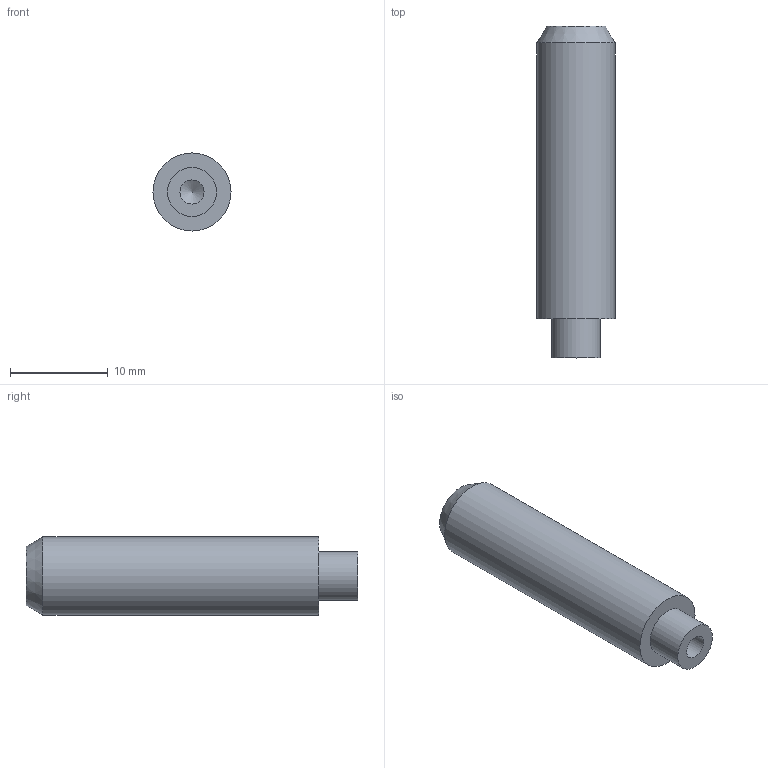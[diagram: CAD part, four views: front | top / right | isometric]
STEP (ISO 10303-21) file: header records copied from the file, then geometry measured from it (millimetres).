
FILE_DESCRIPTION(/* description */ ('Guide Rod'),/* implementation_level */ '2;1');
FILE_NAME(/* name */ 'ITPT.01.00.003.stp',/* time_stamp */ '2025-02-12T14:27:37+01:00',/* author */ ('Rüdiger Widera'),/* organization */ (''),/* preprocessor_version */ 'ST-DEVELOPER v19.2',/* originating_system */ 'Autodesk Inventor 2024',/* authorisation */ '');
FILE_SCHEMA (('AUTOMOTIVE_DESIGN { 1 0 10303 214 3 1 1 }'));
Length unit declared in the file: millimetre
Products named in the file (1): ITPT.01.00.003
Bounding box: 8 x 34 x 8 mm (x, y, z)
Volume: 1527.4 mm3; surface area: 958.4 mm2
Topology: 1 solids, 1 shells, 8 faces, 14 edges, 9 vertices
Faces by surface type: cylinder 3, plane 3, cone 2
Full cylindrical faces by diameter (mm): 2.459 x1, 5 x1, 8 x1
Entity records: 236 total; most frequent: DIRECTION 39, CARTESIAN_POINT 31, ORIENTED_EDGE 26, AXIS2_PLACEMENT_3D 17, EDGE_CURVE 13, EDGE_LOOP 10, VERTEX_POINT 9, FACE_OUTER_BOUND 8
